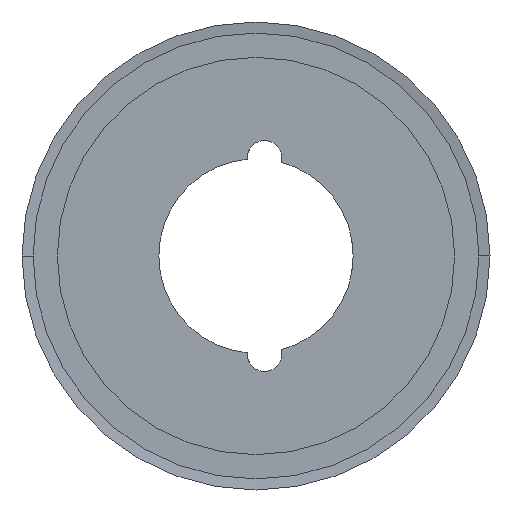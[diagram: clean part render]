
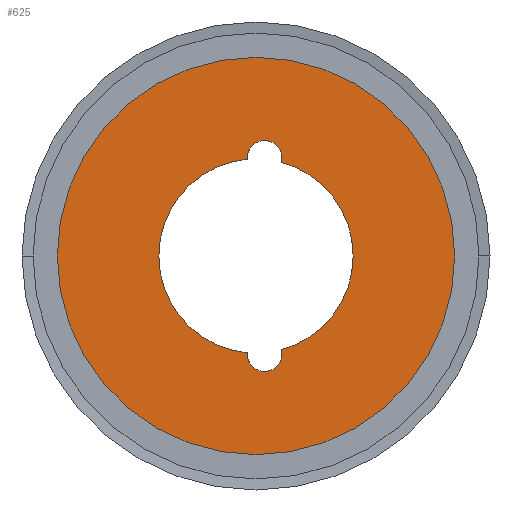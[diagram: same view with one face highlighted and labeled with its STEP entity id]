
A CAD part, left-side view. The second image highlights one B-rep face of the part: STEP entity #625.
In plain terms, the highlighted planar face has unit normal (-1, 0, 0).
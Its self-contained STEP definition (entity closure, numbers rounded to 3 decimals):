
#625 = ADVANCED_FACE( '', ( #1733, #1734 ), #1735, .T. );
#1733 = FACE_BOUND( '', #2842, .T. );
#1734 = FACE_OUTER_BOUND( '', #2843, .T. );
#1735 = PLANE( '', #2844 );
#2842 = EDGE_LOOP( '', ( #7727, #7728, #7729, #7730, #7731, #7732, #7733, #7734, #7735, #7736 ) );
#2843 = EDGE_LOOP( '', ( #7737, #7738 ) );
#2844 = AXIS2_PLACEMENT_3D( '', #7739, #7740, #7741 );
#7727 = ORIENTED_EDGE( '', *, *, #7803, .T. );
#7728 = ORIENTED_EDGE( '', *, *, #7806, .T. );
#7729 = ORIENTED_EDGE( '', *, *, #7805, .T. );
#7730 = ORIENTED_EDGE( '', *, *, #7798, .F. );
#7731 = ORIENTED_EDGE( '', *, *, #7810, .F. );
#7732 = ORIENTED_EDGE( '', *, *, #7813, .T. );
#7733 = ORIENTED_EDGE( '', *, *, #7789, .T. );
#7734 = ORIENTED_EDGE( '', *, *, #7784, .T. );
#7735 = ORIENTED_EDGE( '', *, *, #7811, .F. );
#7736 = ORIENTED_EDGE( '', *, *, #7796, .F. );
#7737 = ORIENTED_EDGE( '', *, *, #7745, .T. );
#7738 = ORIENTED_EDGE( '', *, *, #9363, .T. );
#7739 = CARTESIAN_POINT( '', ( 0., 33.501, 0. ) );
#7740 = DIRECTION( '', ( -1., 0., 0. ) );
#7741 = DIRECTION( '', ( 0., 1., 0. ) );
#7745 = EDGE_CURVE( '', #9365, #9369, #9371, .T. );
#7784 = EDGE_CURVE( '', #9437, #9440, #9442, .T. );
#7789 = EDGE_CURVE( '', #9444, #9437, #9451, .T. );
#7796 = EDGE_CURVE( '', #9462, #9452, #9464, .T. );
#7798 = EDGE_CURVE( '', #9465, #9468, #9469, .T. );
#7803 = EDGE_CURVE( '', #9462, #9475, #9477, .T. );
#7805 = EDGE_CURVE( '', #9478, #9468, #9480, .T. );
#7806 = EDGE_CURVE( '', #9475, #9478, #9481, .T. );
#7810 = EDGE_CURVE( '', #9484, #9465, #9486, .T. );
#7811 = EDGE_CURVE( '', #9452, #9440, #9487, .T. );
#7813 = EDGE_CURVE( '', #9484, #9444, #9489, .T. );
#9363 = EDGE_CURVE( '', #9369, #9365, #12063, .T. );
#9365 = VERTEX_POINT( '', #12065 );
#9369 = VERTEX_POINT( '', #12070 );
#9371 = CIRCLE( '', #12073, 45. );
#9437 = VERTEX_POINT( '', #12191 );
#9440 = VERTEX_POINT( '', #12195 );
#9442 = CIRCLE( '', #12204, 3.95 );
#9444 = VERTEX_POINT( '', #12206 );
#9451 = CIRCLE( '', #12228, 3.95 );
#9452 = VERTEX_POINT( '', #12229 );
#9462 = VERTEX_POINT( '', #12281 );
#9464 = CIRCLE( '', #12290, 22.002 );
#9465 = VERTEX_POINT( '', #12291 );
#9468 = VERTEX_POINT( '', #12295 );
#9469 = CIRCLE( '', #12296, 22.002 );
#9475 = VERTEX_POINT( '', #12316 );
#9477 = CIRCLE( '', #12319, 3.95 );
#9478 = VERTEX_POINT( '', #12320 );
#9480 = CIRCLE( '', #12323, 3.95 );
#9481 = CIRCLE( '', #12324, 3.95 );
#9484 = VERTEX_POINT( '', #12327 );
#9486 = CIRCLE( '', #12336, 22.002 );
#9487 = CIRCLE( '', #12337, 22.002 );
#9489 = CIRCLE( '', #12339, 3.95 );
#12063 = CIRCLE( '', #15809, 45. );
#12065 = CARTESIAN_POINT( '', ( 0., 45., 0. ) );
#12070 = CARTESIAN_POINT( '', ( 0., -45., 0. ) );
#12073 = AXIS2_PLACEMENT_3D( '', #15815, #15816, #15817 );
#12191 = CARTESIAN_POINT( '', ( 0., 2.013, -22.22 ) );
#12195 = CARTESIAN_POINT( '', ( 0., 2.001, -21.911 ) );
#12204 = AXIS2_PLACEMENT_3D( '', #15885, #15886, #15887 );
#12206 = CARTESIAN_POINT( '', ( 0., -5.887, -22.22 ) );
#12228 = AXIS2_PLACEMENT_3D( '', #15892, #15893, #15894 );
#12229 = CARTESIAN_POINT( '', ( 0., 22.002, 0. ) );
#12281 = CARTESIAN_POINT( '', ( 0., 2.001, 21.911 ) );
#12290 = AXIS2_PLACEMENT_3D( '', #15899, #15900, #15901 );
#12291 = CARTESIAN_POINT( '', ( 0., -22.002, 0. ) );
#12295 = CARTESIAN_POINT( '', ( 0., -5.762, 21.234 ) );
#12296 = AXIS2_PLACEMENT_3D( '', #15903, #15904, #15905 );
#12316 = CARTESIAN_POINT( '', ( 0., 2.013, 22.22 ) );
#12319 = AXIS2_PLACEMENT_3D( '', #15910, #15911, #15912 );
#12320 = CARTESIAN_POINT( '', ( 0., -5.887, 22.22 ) );
#12323 = AXIS2_PLACEMENT_3D( '', #15914, #15915, #15916 );
#12324 = AXIS2_PLACEMENT_3D( '', #15917, #15918, #15919 );
#12327 = CARTESIAN_POINT( '', ( 0., -5.762, -21.234 ) );
#12336 = AXIS2_PLACEMENT_3D( '', #15926, #15927, #15928 );
#12337 = AXIS2_PLACEMENT_3D( '', #15929, #15930, #15931 );
#12339 = AXIS2_PLACEMENT_3D( '', #15935, #15936, #15937 );
#15809 = AXIS2_PLACEMENT_3D( '', #18793, #18794, #18795 );
#15815 = CARTESIAN_POINT( '', ( 0., 0., 0. ) );
#15816 = DIRECTION( '', ( -1., 0., 0. ) );
#15817 = DIRECTION( '', ( 0., 1., 0. ) );
#15885 = CARTESIAN_POINT( '', ( 0., -1.937, -22.22 ) );
#15886 = DIRECTION( '', ( 1., 0., 0. ) );
#15887 = DIRECTION( '', ( 0., -1., 0. ) );
#15892 = CARTESIAN_POINT( '', ( 0., -1.937, -22.22 ) );
#15893 = DIRECTION( '', ( 1., 0., 0. ) );
#15894 = DIRECTION( '', ( 0., -1., 0. ) );
#15899 = CARTESIAN_POINT( '', ( 0., 0., 0. ) );
#15900 = DIRECTION( '', ( -1., 0., 0. ) );
#15901 = DIRECTION( '', ( 0., 1., 0. ) );
#15903 = CARTESIAN_POINT( '', ( 0., 0., 0. ) );
#15904 = DIRECTION( '', ( -1., 0., 0. ) );
#15905 = DIRECTION( '', ( 0., 1., 0. ) );
#15910 = CARTESIAN_POINT( '', ( 0., -1.937, 22.22 ) );
#15911 = DIRECTION( '', ( 1., 0., 0. ) );
#15912 = DIRECTION( '', ( 0., -1., 0. ) );
#15914 = CARTESIAN_POINT( '', ( 0., -1.937, 22.22 ) );
#15915 = DIRECTION( '', ( 1., 0., 0. ) );
#15916 = DIRECTION( '', ( 0., -1., 0. ) );
#15917 = CARTESIAN_POINT( '', ( 0., -1.937, 22.22 ) );
#15918 = DIRECTION( '', ( 1., 0., 0. ) );
#15919 = DIRECTION( '', ( 0., -1., 0. ) );
#15926 = CARTESIAN_POINT( '', ( 0., 0., 0. ) );
#15927 = DIRECTION( '', ( -1., 0., 0. ) );
#15928 = DIRECTION( '', ( 0., 1., 0. ) );
#15929 = CARTESIAN_POINT( '', ( 0., 0., 0. ) );
#15930 = DIRECTION( '', ( -1., 0., 0. ) );
#15931 = DIRECTION( '', ( 0., 1., 0. ) );
#15935 = CARTESIAN_POINT( '', ( 0., -1.937, -22.22 ) );
#15936 = DIRECTION( '', ( 1., 0., 0. ) );
#15937 = DIRECTION( '', ( 0., -1., 0. ) );
#18793 = CARTESIAN_POINT( '', ( 0., 0., 0. ) );
#18794 = DIRECTION( '', ( -1., 0., 0. ) );
#18795 = DIRECTION( '', ( 0., 1., 0. ) );
